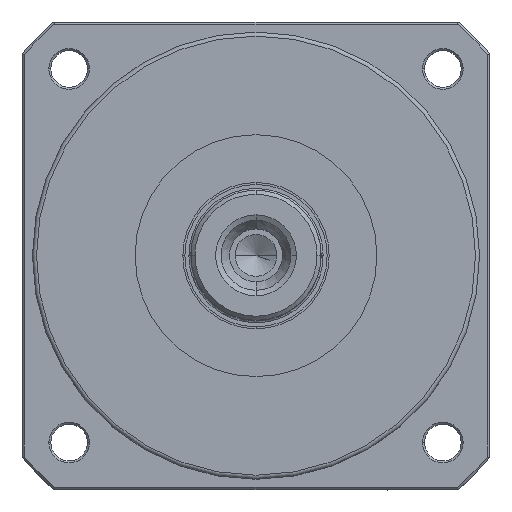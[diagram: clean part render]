
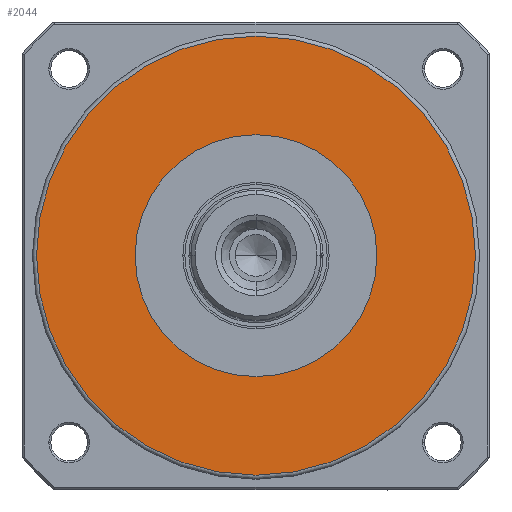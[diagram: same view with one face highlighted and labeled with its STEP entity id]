
A CAD part, top view. The second image highlights one B-rep face of the part: STEP entity #2044.
In plain terms, the highlighted planar face has unit normal (0, 0, 1).
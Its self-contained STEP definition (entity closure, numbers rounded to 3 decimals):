
#792=PLANE('',#8120);
#2044=ADVANCED_FACE('',(#2684,#2685),#792,.T.);
#2684=FACE_BOUND('',#3008,.T.);
#2685=FACE_BOUND('',#3009,.T.);
#3008=EDGE_LOOP('',(#3898,#3899));
#3009=EDGE_LOOP('',(#3900));
#3898=ORIENTED_EDGE('',*,*,#6566,.T.);
#3899=ORIENTED_EDGE('',*,*,#6568,.T.);
#3900=ORIENTED_EDGE('',*,*,#6483,.F.);
#5745=VERTEX_POINT('',#11527);
#5801=VERTEX_POINT('',#11961);
#5802=VERTEX_POINT('',#11963);
#6483=EDGE_CURVE('',#5745,#5745,#7521,.T.);
#6566=EDGE_CURVE('',#5802,#5801,#7562,.T.);
#6568=EDGE_CURVE('',#5801,#5802,#7563,.T.);
#7521=CIRCLE('',#8041,54.);
#7562=CIRCLE('',#8116,18.);
#7563=CIRCLE('',#8118,18.);
#8041=AXIS2_PLACEMENT_3D('',#11526,#9170,#9171);
#8116=AXIS2_PLACEMENT_3D('',#11962,#9356,#9357);
#8118=AXIS2_PLACEMENT_3D('',#11966,#9361,#9362);
#8120=AXIS2_PLACEMENT_3D('',#11968,#9365,#9366);
#9170=DIRECTION('',(0.,0.,-1.));
#9171=DIRECTION('',(0.,1.,0.));
#9356=DIRECTION('',(0.,0.,-1.));
#9357=DIRECTION('',(1.,0.,0.));
#9361=DIRECTION('',(0.,0.,-1.));
#9362=DIRECTION('',(1.,0.,0.));
#9365=DIRECTION('',(0.,0.,1.));
#9366=DIRECTION('',(1.,0.,0.));
#11526=CARTESIAN_POINT('',(0.,0.,172.));
#11527=CARTESIAN_POINT('',(0.,54.,172.));
#11961=CARTESIAN_POINT('',(-18.,0.,172.));
#11962=CARTESIAN_POINT('',(0.,0.,172.));
#11963=CARTESIAN_POINT('',(18.,0.,172.));
#11966=CARTESIAN_POINT('',(0.,0.,172.));
#11968=CARTESIAN_POINT('',(0.,0.,172.));
